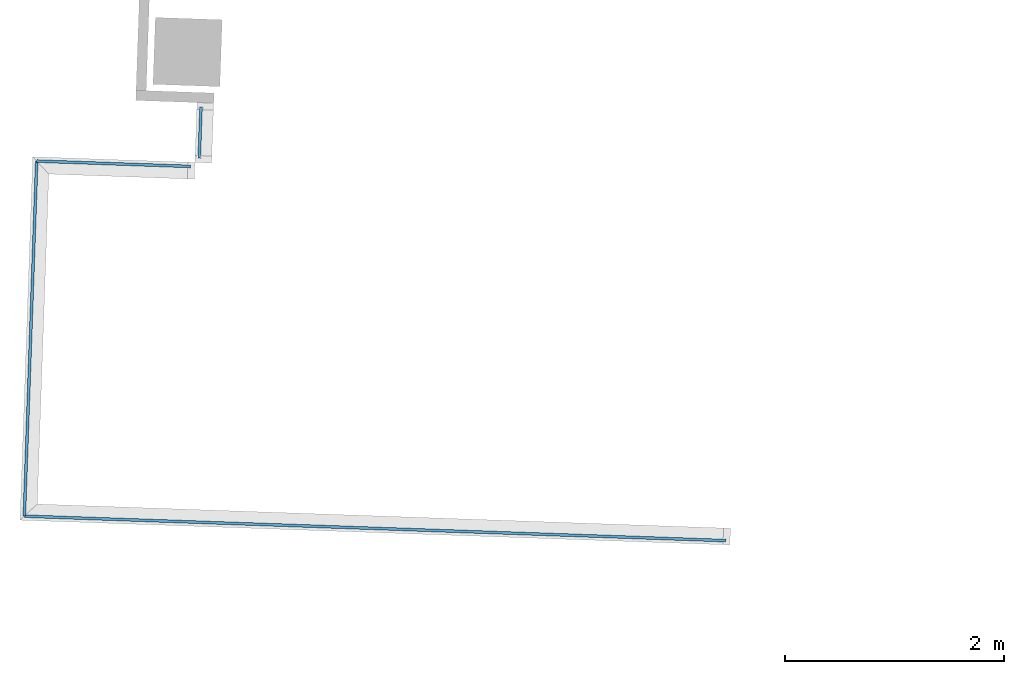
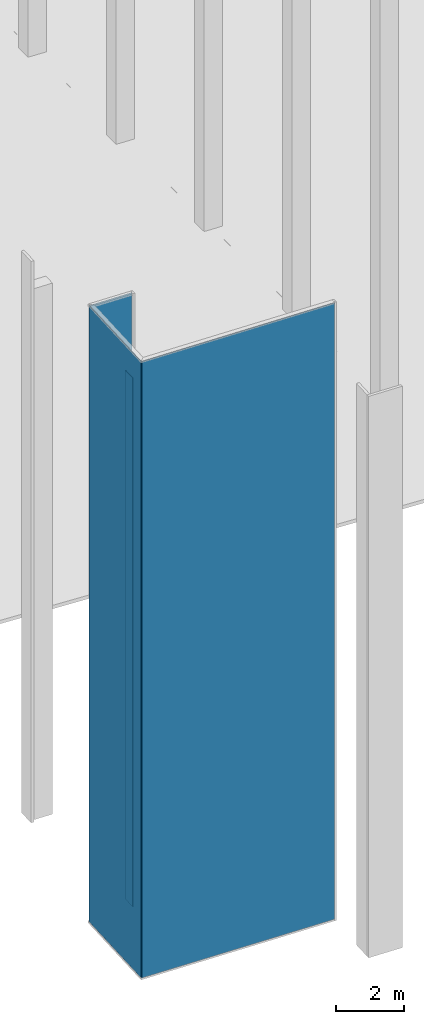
# One storey, part 22 of 44: 4 plates, 4 elements without a shape of their own.
"""IFC2X3 building model written with IfcOpenShell, lengths in feet."""

from ifc_helpers import new_model, entity, si_unit, converted_unit, derived_unit, direction, frame, origin, origin_2d_with_axis, place, context, subcontext, project, spatial, rectangle, extrude, source, transform, mapped, material, type_object, type_shapes, element, aggregate, save


model = new_model("IFC2X3")

# Units and contexts
model_context = context("Model", 3, precision=0.0001, world=origin(), true_north=direction((0.999390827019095, 0.0348994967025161)))
body_context = subcontext(model_context, "Body", "Model", "MODEL_VIEW")
ifc_project = project(units=[converted_unit("LENGTHUNIT", "FOOT", entity("IfcRatioMeasure", 0.3048), si_unit("LENGTHUNIT", "METRE"), dimensions=[1, 0, 0, 0, 0, 0, 0]), converted_unit("AREAUNIT", "SQUARE FOOT", entity("IfcRatioMeasure", 0.09290304), si_unit("AREAUNIT", "SQUARE_METRE"), dimensions=[2, 0, 0, 0, 0, 0, 0]), converted_unit("VOLUMEUNIT", "CUBIC FOOT", entity("IfcRatioMeasure", 0.028316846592), si_unit("VOLUMEUNIT", "CUBIC_METRE"), dimensions=[3, 0, 0, 0, 0, 0, 0]), converted_unit("PLANEANGLEUNIT", "DEGREE", entity("IfcRatioMeasure", 0.0174532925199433), si_unit("PLANEANGLEUNIT", "RADIAN"), dimensions=[0, 0, 0, 0, 0, 0, 0]), si_unit("MASSUNIT", "GRAM", prefix="KILO"), si_unit("TIMEUNIT", "SECOND"), si_unit("FREQUENCYUNIT", "HERTZ"), si_unit("THERMODYNAMICTEMPERATUREUNIT", "DEGREE_CELSIUS"), derived_unit("THERMALTRANSMITTANCEUNIT", [(si_unit("MASSUNIT", "GRAM", prefix="KILO"), 1), (si_unit("THERMODYNAMICTEMPERATUREUNIT", "KELVIN"), -1), (si_unit("TIMEUNIT", "SECOND"), -3)]), derived_unit("VOLUMETRICFLOWRATEUNIT", [(si_unit("LENGTHUNIT", "METRE"), 3), (si_unit("TIMEUNIT", "SECOND"), -1)]), si_unit("ELECTRICCURRENTUNIT", "AMPERE"), si_unit("ELECTRICVOLTAGEUNIT", "VOLT"), si_unit("POWERUNIT", "WATT"), si_unit("FORCEUNIT", "NEWTON"), si_unit("ILLUMINANCEUNIT", "LUX"), si_unit("LUMINOUSFLUXUNIT", "LUMEN"), si_unit("LUMINOUSINTENSITYUNIT", "CANDELA"), derived_unit("USERDEFINED", [(si_unit("MASSUNIT", "GRAM", prefix="KILO"), -1), (si_unit("LENGTHUNIT", "METRE"), -2), (si_unit("TIMEUNIT", "SECOND"), 3), (si_unit("LUMINOUSFLUXUNIT", "LUMEN"), 1)]), derived_unit("LINEARVELOCITYUNIT", [(si_unit("LENGTHUNIT", "METRE"), 1), (si_unit("TIMEUNIT", "SECOND"), -1)]), si_unit("PRESSUREUNIT", "PASCAL"), derived_unit("USERDEFINED", [(si_unit("LENGTHUNIT", "METRE"), -2), (si_unit("MASSUNIT", "GRAM", prefix="KILO"), 1), (si_unit("TIMEUNIT", "SECOND"), -2)])], contexts=[model_context])

# Site, building, storey
site_placement = place(None, frame((892.518771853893, 322.38689265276, 0.00393700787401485), z_axis=(0.0, 0.0, 1.0), x_axis=(0.0348994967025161, 0.999390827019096, 0.0)))
site = spatial("IfcSite", under=ifc_project, at=site_placement, Name="Default", CompositionType="ELEMENT")
building_placement = place(site_placement, origin())
building = spatial("IfcBuilding", under=site, at=building_placement, CompositionType="ELEMENT")
storey_placement = place(building_placement, frame((0.0, 0.0, 544.75)))
storey = spatial("IfcBuildingStorey", under=building, at=storey_placement, Name="Exist Garage - Ground Level", CompositionType="ELEMENT", Elevation=544.75)

# Curtain wall, plate
curtain_wall_type = type_object("IfcCurtainWallType", Name="Curtain Wall:(Existing) Curtainwall - Blank", PredefinedType="NOTDEFINED")
curtain_wall_1_placement = place(storey_placement, frame((0.0, 0.0, -544.75)))
curtain_wall_1 = element("IfcCurtainWall", 1, at=curtain_wall_1_placement, inside=storey, type_object=curtain_wall_type, Name="Curtain Wall:(Existing) Curtainwall - Blank", ObjectType="Curtain Wall:(Existing) Curtainwall - Blank")
ifc_material = material(Name="Glazing - Core & Shell Curtain Wall")
plate_type_1 = type_object("IfcPlateType", Name="1\" Insulated Clear Glass", PredefinedType="CURTAIN_PANEL", material=ifc_material)
shared_shape_1 = source(origin(), body_context, "Body", "SweptSolid", [
    extrude(rectangle(XDim=0.0833333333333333, YDim=20.9896653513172, at=origin_2d_with_axis()), frame((0.0, 0.0, 0.0), z_axis=(0.0, 0.0, 1.0), x_axis=(0.0, 1.0, 0.0)), (0.0, 0.0, 1.0), 72.2395833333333),
])
type_shapes(plate_type_1, [shared_shape_1])
plate_1_placement = place(curtain_wall_1_placement, frame((-184.114412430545, 450.664954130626, 544.880208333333), z_axis=(0.0, 0.0, 1.0), x_axis=(0.0, 1.0, 0.0)))
plate_1 = element("IfcPlate", 2, at=plate_1_placement, type_object=plate_type_1, material=ifc_material, Name="System Panel:1\" Insulated Clear Glass", ObjectType="1\" Insulated Clear Glass", context=body_context, shape_type="MappedRepresentation", body=[
    mapped(shared_shape_1, transform((0.0, 0.0, 0.0), scale=1.0)),
])
aggregate(curtain_wall_1, [plate_1])

curtain_wall_2_placement = place(storey_placement, frame((0.0, 0.0, -544.75)))
curtain_wall_2 = element("IfcCurtainWall", 3, at=curtain_wall_2_placement, inside=storey, type_object=curtain_wall_type, Name="Curtain Wall:(Existing) Curtainwall - Blank", ObjectType="Curtain Wall:(Existing) Curtainwall - Blank")
plate_type_2 = type_object("IfcPlateType", Name="1\" Insulated Clear Glass", PredefinedType="CURTAIN_PANEL", material=ifc_material)
shared_shape_2 = source(origin(), body_context, "Body", "SweptSolid", [
    extrude(rectangle(XDim=0.0833333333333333, YDim=10.625, at=origin_2d_with_axis()), frame((0.0, 0.0, 0.0), z_axis=(0.0, 0.0, 1.0), x_axis=(0.0, 1.0, 0.0)), (0.0, 0.0, 1.0), 72.2395833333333),
])
type_shapes(plate_type_2, [shared_shape_2])
plate_2_placement = place(curtain_wall_2_placement, frame((-178.801912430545, 461.159786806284, 544.880208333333)))
plate_2 = element("IfcPlate", 4, at=plate_2_placement, type_object=plate_type_2, material=ifc_material, Name="System Panel:1\" Insulated Clear Glass", ObjectType="1\" Insulated Clear Glass", context=body_context, shape_type="MappedRepresentation", body=[
    mapped(shared_shape_2, transform((0.0, 0.0, 0.0), scale=1.0)),
])
aggregate(curtain_wall_2, [plate_2])

curtain_wall_3_placement = place(storey_placement, frame((0.0, 0.0, -544.75)))
curtain_wall_3 = element("IfcCurtainWall", 5, at=curtain_wall_3_placement, inside=storey, type_object=curtain_wall_type, Name="Curtain Wall:(Existing) Curtainwall - Blank", ObjectType="Curtain Wall:(Existing) Curtainwall - Blank")
plate_type_3 = type_object("IfcPlateType", Name="1\" Insulated Clear Glass", PredefinedType="CURTAIN_PANEL", material=ifc_material)
shared_shape_3 = source(origin(), body_context, "Body", "SweptSolid", [
    extrude(rectangle(XDim=0.0833333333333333, YDim=4.59895833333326, at=origin_2d_with_axis()), frame((0.0, 0.0, 0.0), z_axis=(0.0, 0.0, 1.0), x_axis=(0.0, 1.0, 0.0)), (0.0, 0.0, 1.0), 72.2395833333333),
])
type_shapes(plate_type_3, [shared_shape_3])
plate_3_placement = place(curtain_wall_3_placement, frame((-173.489412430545, 458.860307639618, 544.880208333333), z_axis=(0.0, 0.0, 1.0), x_axis=(0.0, -1.0, 0.0)))
plate_3 = element("IfcPlate", 6, at=plate_3_placement, type_object=plate_type_3, material=ifc_material, Name="System Panel:1\" Insulated Clear Glass", ObjectType="1\" Insulated Clear Glass", context=body_context, shape_type="MappedRepresentation", body=[
    mapped(shared_shape_3, transform((0.0, 0.0, 0.0), scale=1.0)),
])
aggregate(curtain_wall_3, [plate_3])

curtain_wall_4_placement = place(storey_placement, frame((0.0, 0.0, -544.75)))
curtain_wall_4 = element("IfcCurtainWall", 7, at=curtain_wall_4_placement, inside=storey, type_object=curtain_wall_type, Name="Curtain Wall:(Existing) Curtainwall - Blank", ObjectType="Curtain Wall:(Existing) Curtainwall - Blank")
plate_type_4 = type_object("IfcPlateType", Name="1\" Insulated Clear Glass", PredefinedType="CURTAIN_PANEL", material=ifc_material)
shared_shape_4 = source(origin(), body_context, "Body", "SweptSolid", [
    extrude(rectangle(XDim=0.0833333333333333, YDim=1.53125000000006, at=origin_2d_with_axis()), frame((0.0, 0.0, 0.0), z_axis=(0.0, 0.0, 1.0), x_axis=(0.0, 1.0, 0.0)), (0.0, 0.0, 1.0), 61.9895833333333),
])
type_shapes(plate_type_4, [shared_shape_4])
plate_4_placement = place(curtain_wall_4_placement, frame((-172.468579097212, 456.305620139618, 544.880208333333), z_axis=(0.0, 0.0, 1.0), x_axis=(-1.0, 0.0, 0.0)))
plate_4 = element("IfcPlate", 8, at=plate_4_placement, type_object=plate_type_4, material=ifc_material, Name="System Panel:1\" Insulated Clear Glass", ObjectType="1\" Insulated Clear Glass", context=body_context, shape_type="MappedRepresentation", body=[
    mapped(shared_shape_4, transform((0.0, 0.0, 0.0), scale=1.0)),
])
aggregate(curtain_wall_4, [plate_4])

save(model, "model.ifc")
